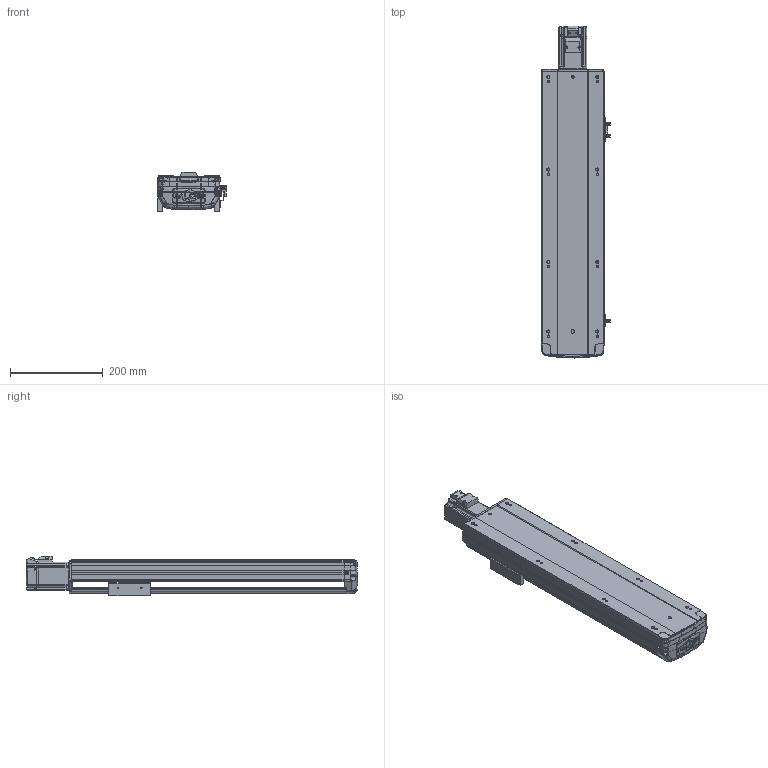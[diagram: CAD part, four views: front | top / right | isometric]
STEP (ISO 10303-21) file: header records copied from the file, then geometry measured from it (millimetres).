
FILE_DESCRIPTION (( 'STEP AP203' ), '1' );
FILE_NAME ('8.STEP', '2020-11-07T00:18:08', ( '' ), ( '' ), 'SwSTEP 2.0', 'SolidWorks 2016', '' );
FILE_SCHEMA (( 'CONFIG_CONTROL_DESIGN' ));
Length unit declared in the file: millimetre
Products named in the file (8): BTH13-BC-04; 8; BTH13-BC-03; BTH13-BL-20; BTH13-BC-P20; BTH13-BC-HZ; BTH13-BC-01; BTH13-BC-菁釱
Assembly tree (9 placements, depth 2):
  8
    BTH13-BC-菁釱
    BTH13-BC-01
    BTH13-BC-03
    BTH13-BC-04  x3
    BTH13-BC-HZ
    BTH13-BC-P20
    BTH13-BL-20
Bounding box: 148.7 x 717.21 x 84.91 mm (x, y, z)
Volume: 2828568.1 mm3; surface area: 626680.2 mm2
Topology: 10 solids, 10 shells, 1712 faces, 4641 edges, 3011 vertices
Faces by surface type: plane 920, cylinder 464, bspline 185, cone 110, torus 33
Entity records: 57025 total; most frequent: CARTESIAN_POINT 20208, ORIENTED_EDGE 7934, DIRECTION 6910, EDGE_CURVE 3967, VERTEX_POINT 2587, AXIS2_PLACEMENT_3D 2339, LINE 2232, VECTOR 2232
